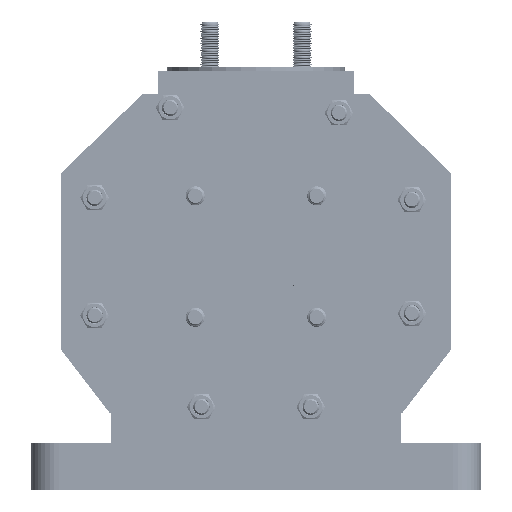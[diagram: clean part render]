
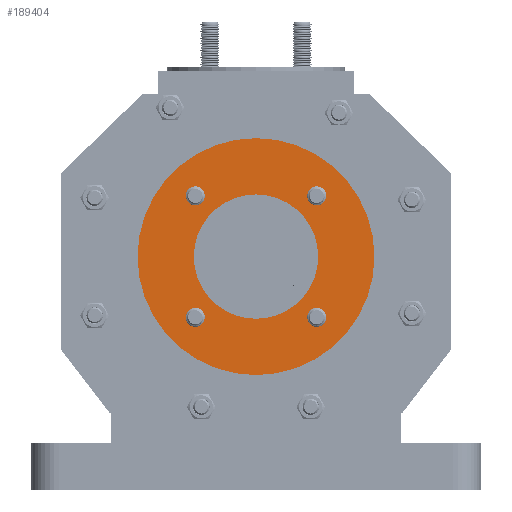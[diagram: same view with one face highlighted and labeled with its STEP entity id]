
A CAD part, front view. The second image highlights one B-rep face of the part: STEP entity #189404.
In plain terms, the highlighted planar face has unit normal (0, -1, 0).
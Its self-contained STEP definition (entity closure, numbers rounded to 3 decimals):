
#188956=CARTESIAN_POINT('',(59.265,-3.,61.265));
#188957=VERTEX_POINT('',#188956);
#188973=CARTESIAN_POINT('',(43.265,-3.,61.265));
#188974=VERTEX_POINT('',#188973);
#188981=CARTESIAN_POINT('',(51.265,-3.,61.265));
#188982=DIRECTION('',(0.0,-1.0,0.0));
#188983=DIRECTION('',(1.0,0.0,0.0));
#188984=AXIS2_PLACEMENT_3D('',#188981,#188982,#188983);
#188985=CIRCLE('',#188984,8.);
#188986=EDGE_CURVE('',#188974,#188957,#188985,.T.);
#188998=CARTESIAN_POINT('',(-43.265,-3.,61.265));
#188999=VERTEX_POINT('',#188998);
#189015=CARTESIAN_POINT('',(-59.265,-3.,61.265));
#189016=VERTEX_POINT('',#189015);
#189023=CARTESIAN_POINT('',(-51.265,-3.,61.265));
#189024=DIRECTION('',(0.0,-1.0,0.0));
#189025=DIRECTION('',(1.0,0.0,0.0));
#189026=AXIS2_PLACEMENT_3D('',#189023,#189024,#189025);
#189027=CIRCLE('',#189026,8.);
#189028=EDGE_CURVE('',#189016,#188999,#189027,.T.);
#189040=CARTESIAN_POINT('',(59.265,-3.,-41.265));
#189041=VERTEX_POINT('',#189040);
#189057=CARTESIAN_POINT('',(43.265,-3.,-41.265));
#189058=VERTEX_POINT('',#189057);
#189065=CARTESIAN_POINT('',(51.265,-3.,-41.265));
#189066=DIRECTION('',(0.0,-1.0,0.0));
#189067=DIRECTION('',(1.0,0.0,0.0));
#189068=AXIS2_PLACEMENT_3D('',#189065,#189066,#189067);
#189069=CIRCLE('',#189068,8.);
#189070=EDGE_CURVE('',#189058,#189041,#189069,.T.);
#189082=CARTESIAN_POINT('',(-43.265,-3.,-41.265));
#189083=VERTEX_POINT('',#189082);
#189099=CARTESIAN_POINT('',(-59.265,-3.,-41.265));
#189100=VERTEX_POINT('',#189099);
#189107=CARTESIAN_POINT('',(-51.265,-3.,-41.265));
#189108=DIRECTION('',(0.0,-1.0,0.0));
#189109=DIRECTION('',(1.0,0.0,0.0));
#189110=AXIS2_PLACEMENT_3D('',#189107,#189108,#189109);
#189111=CIRCLE('',#189110,8.);
#189112=EDGE_CURVE('',#189100,#189083,#189111,.T.);
#189124=CARTESIAN_POINT('',(52.5,-3.0,10.0));
#189125=VERTEX_POINT('',#189124);
#189141=CARTESIAN_POINT('',(-52.5,-3.0,10.));
#189142=VERTEX_POINT('',#189141);
#189149=CARTESIAN_POINT('',(0.0,-3.0,10.0));
#189150=DIRECTION('',(0.0,-1.0,0.0));
#189151=DIRECTION('',(1.0,0.0,0.0));
#189152=AXIS2_PLACEMENT_3D('',#189149,#189150,#189151);
#189153=CIRCLE('',#189152,52.5);
#189154=EDGE_CURVE('',#189142,#189125,#189153,.T.);
#189166=CARTESIAN_POINT('',(100.0,-3.0,10.0));
#189167=VERTEX_POINT('',#189166);
#189183=CARTESIAN_POINT('',(-100.0,-3.0,10.));
#189184=VERTEX_POINT('',#189183);
#189191=CARTESIAN_POINT('',(0.0,-3.0,10.0));
#189192=DIRECTION('',(0.0,1.0,0.0));
#189193=DIRECTION('',(1.0,0.0,0.0));
#189194=AXIS2_PLACEMENT_3D('',#189191,#189192,#189193);
#189195=CIRCLE('',#189194,100.0);
#189196=EDGE_CURVE('',#189184,#189167,#189195,.T.);
#189207=CARTESIAN_POINT('',(0.0,-3.0,10.0));
#189208=DIRECTION('',(0.0,1.0,0.0));
#189209=DIRECTION('',(1.0,0.0,0.0));
#189210=AXIS2_PLACEMENT_3D('',#189207,#189208,#189209);
#189211=CIRCLE('',#189210,100.0);
#189212=EDGE_CURVE('',#189167,#189184,#189211,.T.);
#189231=CARTESIAN_POINT('',(0.0,-3.0,10.0));
#189232=DIRECTION('',(0.0,-1.0,0.0));
#189233=DIRECTION('',(1.0,0.0,0.0));
#189234=AXIS2_PLACEMENT_3D('',#189231,#189232,#189233);
#189235=CIRCLE('',#189234,52.5);
#189236=EDGE_CURVE('',#189125,#189142,#189235,.T.);
#189255=CARTESIAN_POINT('',(-51.265,-3.,-41.265));
#189256=DIRECTION('',(0.0,-1.0,0.0));
#189257=DIRECTION('',(1.0,0.0,0.0));
#189258=AXIS2_PLACEMENT_3D('',#189255,#189256,#189257);
#189259=CIRCLE('',#189258,8.);
#189260=EDGE_CURVE('',#189083,#189100,#189259,.T.);
#189279=CARTESIAN_POINT('',(51.265,-3.,-41.265));
#189280=DIRECTION('',(0.0,-1.0,0.0));
#189281=DIRECTION('',(1.0,0.0,0.0));
#189282=AXIS2_PLACEMENT_3D('',#189279,#189280,#189281);
#189283=CIRCLE('',#189282,8.);
#189284=EDGE_CURVE('',#189041,#189058,#189283,.T.);
#189303=CARTESIAN_POINT('',(-51.265,-3.,61.265));
#189304=DIRECTION('',(0.0,-1.0,0.0));
#189305=DIRECTION('',(1.0,0.0,0.0));
#189306=AXIS2_PLACEMENT_3D('',#189303,#189304,#189305);
#189307=CIRCLE('',#189306,8.);
#189308=EDGE_CURVE('',#188999,#189016,#189307,.T.);
#189327=CARTESIAN_POINT('',(51.265,-3.,61.265));
#189328=DIRECTION('',(0.0,-1.0,0.0));
#189329=DIRECTION('',(1.0,0.0,0.0));
#189330=AXIS2_PLACEMENT_3D('',#189327,#189328,#189329);
#189331=CIRCLE('',#189330,8.);
#189332=EDGE_CURVE('',#188957,#188974,#189331,.T.);
#189375=CARTESIAN_POINT('',(9.091,-3.0,10.));
#189376=DIRECTION('',(0.0,-1.0,0.0));
#189377=DIRECTION('',(1.0,0.0,0.0));
#189378=AXIS2_PLACEMENT_3D('',#189375,#189376,#189377);
#189379=PLANE('',#189378);
#189380=ORIENTED_EDGE('',*,*,#189212,.F.);
#189381=ORIENTED_EDGE('',*,*,#189196,.F.);
#189382=EDGE_LOOP('',(#189380,#189381));
#189383=FACE_OUTER_BOUND('',#189382,.T.);
#189384=ORIENTED_EDGE('',*,*,#189332,.F.);
#189385=ORIENTED_EDGE('',*,*,#188986,.F.);
#189386=EDGE_LOOP('',(#189384,#189385));
#189387=FACE_BOUND('',#189386,.T.);
#189388=ORIENTED_EDGE('',*,*,#189308,.F.);
#189389=ORIENTED_EDGE('',*,*,#189028,.F.);
#189390=EDGE_LOOP('',(#189388,#189389));
#189391=FACE_BOUND('',#189390,.T.);
#189392=ORIENTED_EDGE('',*,*,#189284,.F.);
#189393=ORIENTED_EDGE('',*,*,#189070,.F.);
#189394=EDGE_LOOP('',(#189392,#189393));
#189395=FACE_BOUND('',#189394,.T.);
#189396=ORIENTED_EDGE('',*,*,#189260,.F.);
#189397=ORIENTED_EDGE('',*,*,#189112,.F.);
#189398=EDGE_LOOP('',(#189396,#189397));
#189399=FACE_BOUND('',#189398,.T.);
#189400=ORIENTED_EDGE('',*,*,#189236,.F.);
#189401=ORIENTED_EDGE('',*,*,#189154,.F.);
#189402=EDGE_LOOP('',(#189400,#189401));
#189403=FACE_BOUND('',#189402,.T.);
#189404=ADVANCED_FACE('',(#189383,#189387,#189391,#189395,#189399,#189403),#189379,.T.);
